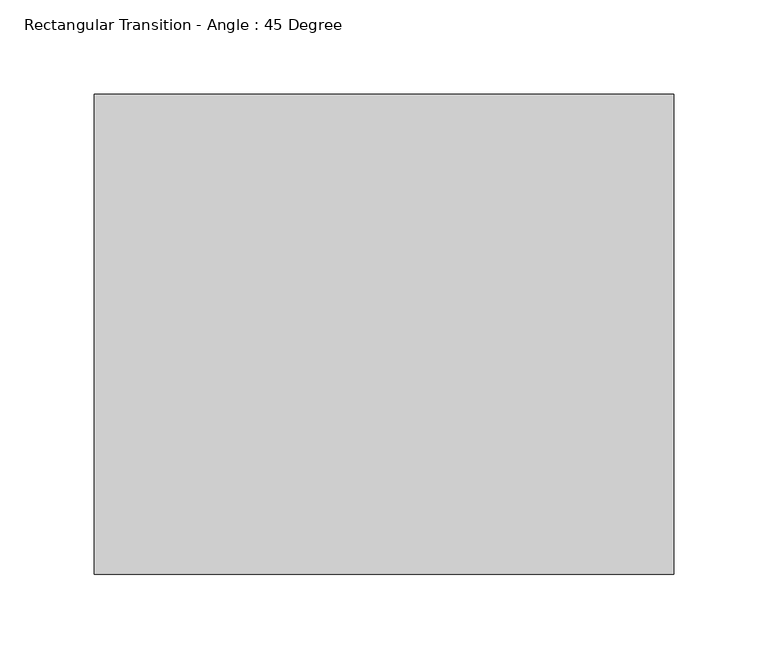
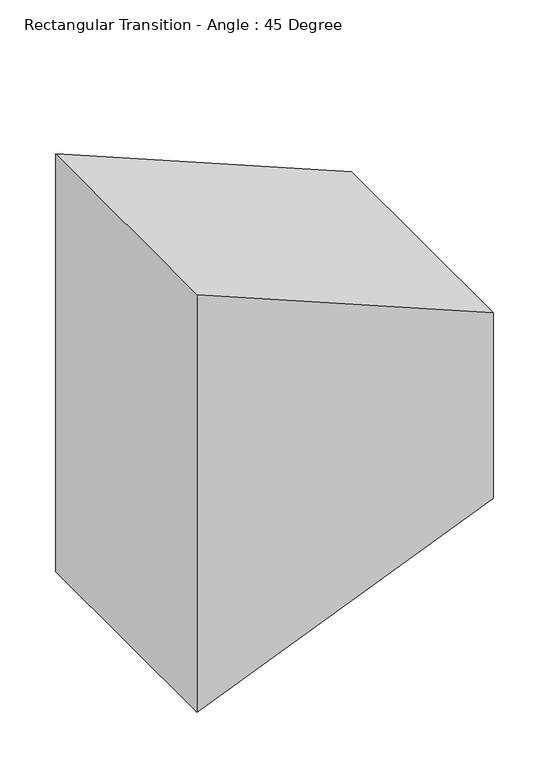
"""IFC4 building model written with IfcOpenShell, lengths in millimetres: duct fitting geometry, Rectangular Transition - Angle : 45 Degree."""

from ifc_helpers import new_model, si_unit, frame, origin, place, context, project, spatial, polyline, outline, extrude, source, transform, mapped, element, save


def rectangular_transition_angle_45_degree_e9be1a90(model_context):
    return source(origin(), model_context, "Body", "SweptSolid", [
        extrude(outline(polyline([(228.6, 0.0), (-228.6, 0.0), (-101.6, 306.6051224), (101.6, 306.6051224), (228.6, 0.0)])), frame((0.0, -127.0, 0.0), z_axis=(0.0, 1.0, 0.0), x_axis=(0.0, 0.0, 1.0)), (0.0, 0.0, 1.0), 254.0),
    ])


if __name__ == "__main__":
    model = new_model("IFC4")
    model_context = context("Model", 3, world=origin())
    ifc_project = project(units=[si_unit("LENGTHUNIT", "METRE", prefix="MILLI")], contexts=[model_context])
    site = spatial("IfcSite", under=ifc_project)
    building = spatial("IfcBuilding", under=site)
    placement = place(None, origin())
    rectangular_transition_angle_45_degree_shape = rectangular_transition_angle_45_degree_e9be1a90(model_context)
    element("IfcDuctFitting", 1, ObjectType="Rectangular Transition - Angle : 45 Degree", at=placement, inside=building, context=model_context, shape_type="MappedRepresentation", body=[
        mapped(rectangular_transition_angle_45_degree_shape, transform((0.0, 0.0, 0.0), x_axis=(1.0, 0.0, 0.0), y_axis=(0.0, 1.0, 0.0), z_axis=(0.0, 0.0, 1.0))),
    ])
    save(model, "model.ifc")
